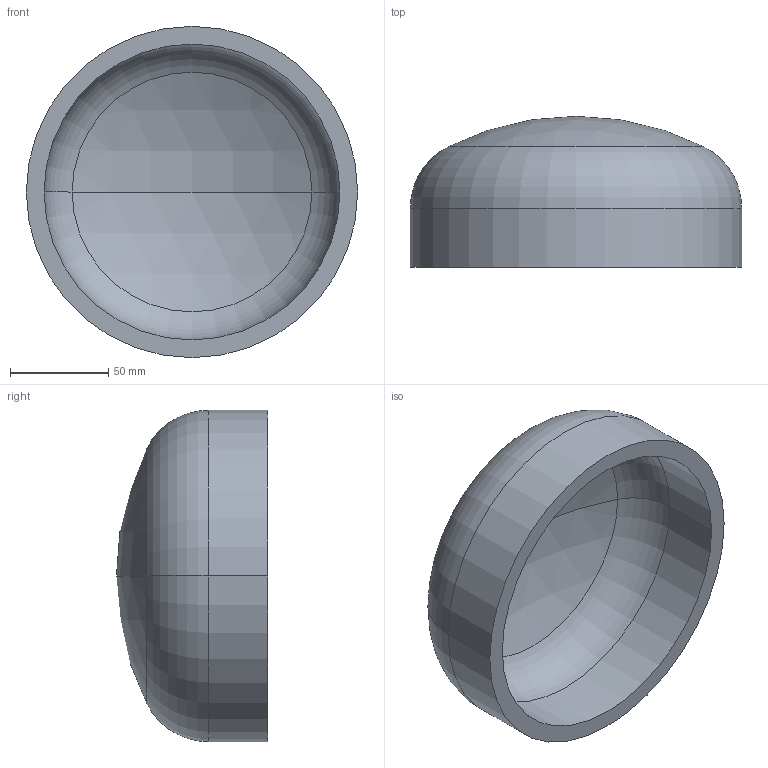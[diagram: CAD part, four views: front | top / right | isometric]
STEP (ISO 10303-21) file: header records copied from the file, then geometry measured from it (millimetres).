
FILE_DESCRIPTION (( 'STEP AP203' ), '1' );
FILE_NAME ('DIN 28013 Korbbogenform_-_Boden DIN 28013 - 168,3 x 30 - I - s=9.step', '2016-07-01T07:41:32', ( '' ), ( '' ), 'SwSTEP 2.0', 'SolidWorks 2013', '' );
FILE_SCHEMA (( 'CONFIG_CONTROL_DESIGN' ));
Length unit declared in the file: millimetre
Products named in the file (1): DIN 28013 Korbbogenform_-_Boden DIN 28013 - 168,3 x 30 - I - s=9
Bounding box: 168.3 x 76.71 x 168.3 mm (x, y, z)
Volume: 394186.1 mm3; surface area: 92270.7 mm2
Topology: 1 solids, 1 shells, 13 faces, 24 edges, 14 vertices
Faces by surface type: torus 4, cylinder 4, sphere 4, plane 1
Entity records: 407 total; most frequent: DIRECTION 72, CARTESIAN_POINT 52, ORIENTED_EDGE 48, AXIS2_PLACEMENT_3D 34, EDGE_CURVE 24, CIRCLE 20, VERTEX_POINT 14, EDGE_LOOP 14
